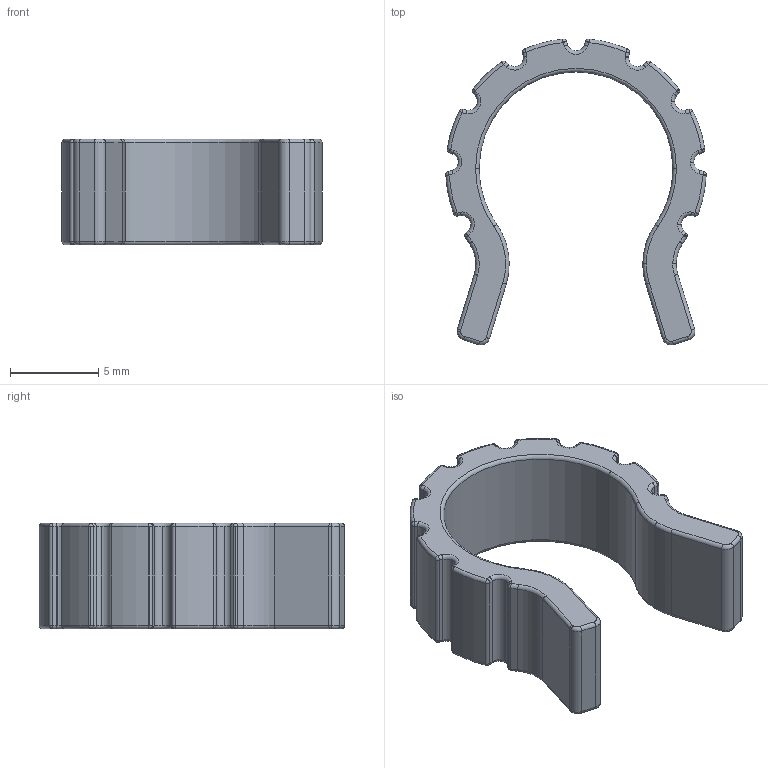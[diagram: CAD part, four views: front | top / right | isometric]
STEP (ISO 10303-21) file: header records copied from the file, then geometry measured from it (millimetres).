
FILE_DESCRIPTION (( 'STEP AP203' ), '1' );
FILE_NAME ('Distanzhalter für Rundreling.STEP', '2014-02-14T12:42:49', ( 'test' ), ( '' ), 'SwSTEP 2.0', 'SolidWorks 2013', '' );
FILE_SCHEMA (( 'CONFIG_CONTROL_DESIGN' ));
Length unit declared in the file: millimetre
Products named in the file (1): Distanzhalter f黵 Rundreling
Bounding box: 14.78 x 17.36 x 6 mm (x, y, z)
Volume: 431.1 mm3; surface area: 674.9 mm2
Topology: 1 solids, 1 shells, 254 faces, 592 edges, 324 vertices
Faces by surface type: cylinder 108, torus 74, sphere 46, plane 26
Entity records: 7033 total; most frequent: DIRECTION 1450, CARTESIAN_POINT 1123, ORIENTED_EDGE 1120, AXIS2_PLACEMENT_3D 635, EDGE_CURVE 560, CIRCLE 380, VERTEX_POINT 308, FACE_OUTER_BOUND 254
